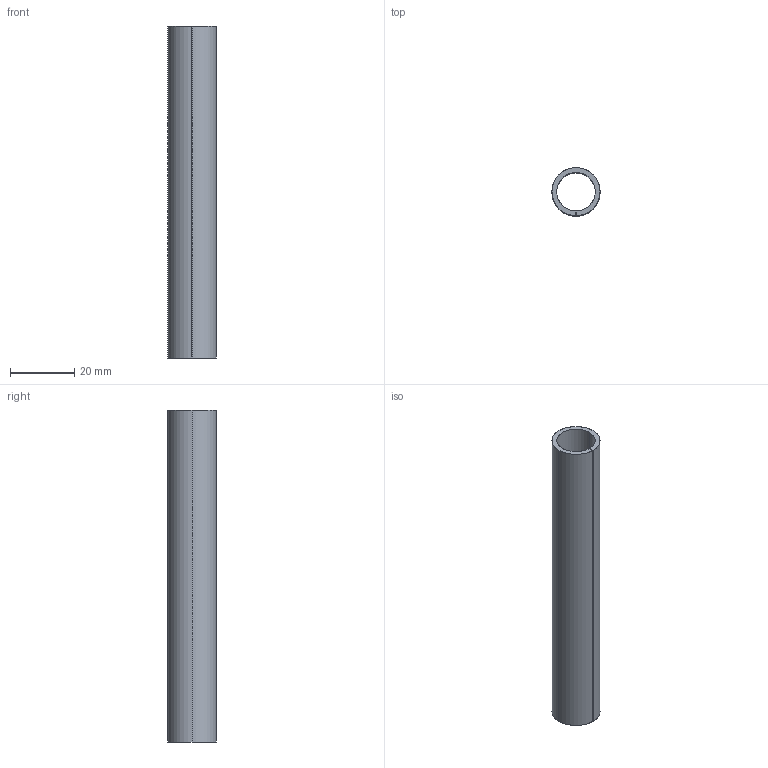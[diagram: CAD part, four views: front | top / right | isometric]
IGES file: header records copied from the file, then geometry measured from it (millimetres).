
Start section: SolidWorks IGES FILE using analytic representation for surfaces
Global section: file name: C:\Documents and Settings\lecoutey\Bureau\PR 316\315.220.00.IGS; native system: SolidWorks 2004 by SolidWorks Corporation; preprocessor: Version 5.3; author: lecoutey; date: 050408.145558; units: millimetre
Bounding box: 15 x 15 x 103.5 mm (x, y, z)
Surface area: 9195.9 mm2 (no closed solid volume)
Topology: 0 solids, 0 shells, 10 faces, 164 edges, 164 vertices
Faces by surface type: revolution 6, bspline 4
